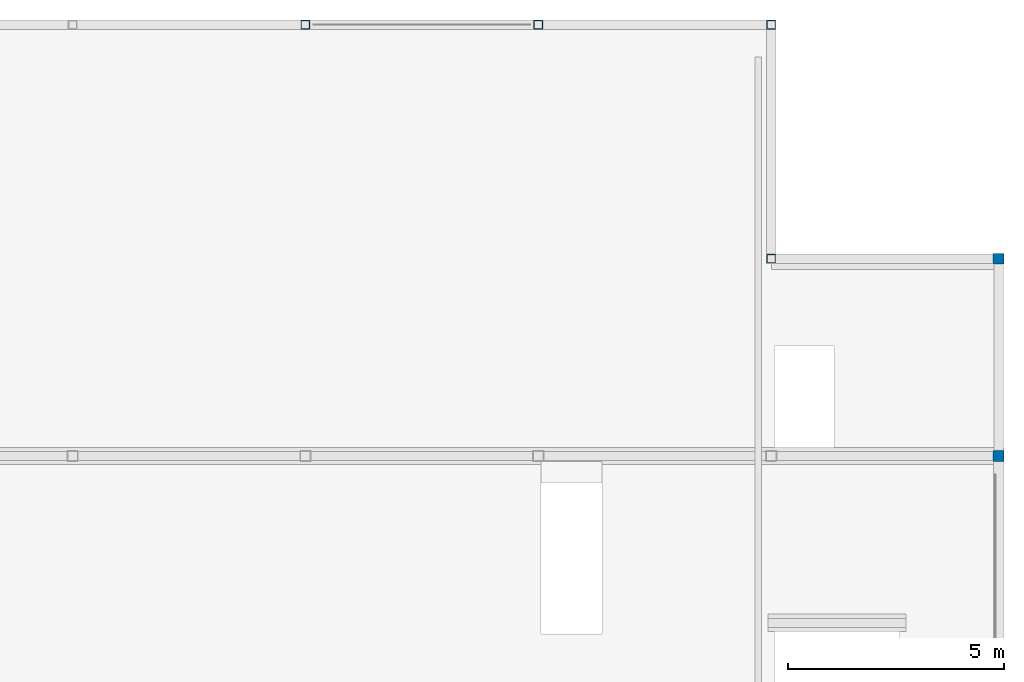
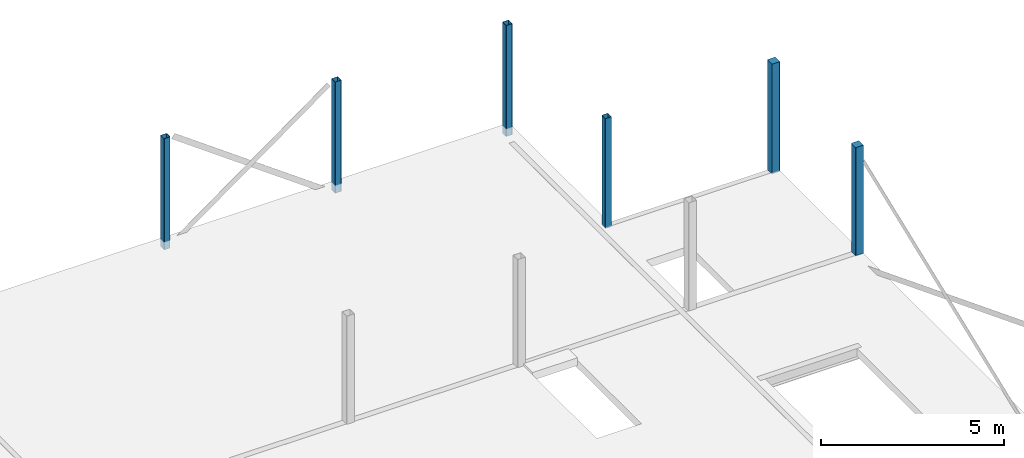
# One storey, part 5 of 7: 6 columns.
"""IFC2X3 building model written with IfcOpenShell, lengths in millimetres."""

from ifc_helpers import new_model, entity, si_unit, converted_unit, derived_unit, direction, frame, frame_2d, origin, place, context, subcontext, project, spatial, polyline, circle_curve, parameter, trimmed, segment, composite_curve, outline, extrude, source, transform, mapped, material, material_list, type_object, type_shapes, element, save


model = new_model("IFC2X3")

# Units and contexts
model_context = context("Model", 3, precision=0.01, world=origin(), true_north=direction((6.123031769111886e-17, 1.0)))
body_context = subcontext(model_context, "Body", "Model", "MODEL_VIEW")
ifc_project = project(units=[si_unit("LENGTHUNIT", "METRE", prefix="MILLI"), si_unit("AREAUNIT", "SQUARE_METRE"), si_unit("VOLUMEUNIT", "CUBIC_METRE"), converted_unit("PLANEANGLEUNIT", "DEGREE", entity("IfcPlaneAngleMeasure", 0.017453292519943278), si_unit("PLANEANGLEUNIT", "RADIAN"), dimensions=[0, 0, 0, 0, 0, 0, 0]), si_unit("MASSUNIT", "GRAM", prefix="KILO"), derived_unit("MASSDENSITYUNIT", [(si_unit("MASSUNIT", "GRAM", prefix="KILO"), 1), (si_unit("LENGTHUNIT", "METRE"), -3)]), derived_unit("IONCONCENTRATIONUNIT", [(si_unit("MASSUNIT", "GRAM", prefix="KILO"), 1), (si_unit("LENGTHUNIT", "METRE"), -3)]), derived_unit("MOMENTOFINERTIAUNIT", [(si_unit("LENGTHUNIT", "METRE"), 4)]), si_unit("TIMEUNIT", "SECOND"), si_unit("FREQUENCYUNIT", "HERTZ"), si_unit("THERMODYNAMICTEMPERATUREUNIT", "DEGREE_CELSIUS"), derived_unit("THERMALTRANSMITTANCEUNIT", [(si_unit("MASSUNIT", "GRAM", prefix="KILO"), 1), (si_unit("THERMODYNAMICTEMPERATUREUNIT", "KELVIN"), -1), (si_unit("TIMEUNIT", "SECOND"), -3)]), derived_unit("THERMALCONDUCTANCEUNIT", [(si_unit("MASSUNIT", "GRAM", prefix="KILO"), 1), (si_unit("THERMODYNAMICTEMPERATUREUNIT", "KELVIN"), -1), (si_unit("TIMEUNIT", "SECOND"), -3), (si_unit("LENGTHUNIT", "METRE"), 1)]), derived_unit("VOLUMETRICFLOWRATEUNIT", [(si_unit("LENGTHUNIT", "METRE", prefix="DECI"), 3), (si_unit("TIMEUNIT", "SECOND"), -1)]), derived_unit("MASSFLOWRATEUNIT", [(si_unit("MASSUNIT", "GRAM", prefix="KILO"), 1), (si_unit("TIMEUNIT", "SECOND"), -1)]), derived_unit("ROTATIONALFREQUENCYUNIT", [(si_unit("TIMEUNIT", "SECOND"), -1)]), si_unit("ELECTRICCURRENTUNIT", "AMPERE"), si_unit("ELECTRICVOLTAGEUNIT", "VOLT"), si_unit("POWERUNIT", "WATT"), si_unit("FORCEUNIT", "NEWTON", prefix="KILO"), si_unit("ILLUMINANCEUNIT", "LUX"), si_unit("LUMINOUSFLUXUNIT", "LUMEN"), si_unit("LUMINOUSINTENSITYUNIT", "CANDELA"), si_unit("ENERGYUNIT", "JOULE"), derived_unit("USERDEFINED", [(si_unit("MASSUNIT", "GRAM", prefix="KILO"), -1), (si_unit("LENGTHUNIT", "METRE"), -2), (si_unit("TIMEUNIT", "SECOND"), 3), (si_unit("LUMINOUSFLUXUNIT", "LUMEN"), 1)]), derived_unit("USERDEFINED", [(si_unit("MASSUNIT", "GRAM", prefix="KILO"), 1), (si_unit("TIMEUNIT", "SECOND"), -3), (si_unit("LENGTHUNIT", "METRE"), 3), (si_unit("ELECTRICCURRENTUNIT", "AMPERE"), -2)]), derived_unit("SOUNDPOWERUNIT", [(si_unit("MASSUNIT", "GRAM", prefix="KILO"), 1), (si_unit("TIMEUNIT", "SECOND"), -3), (si_unit("LENGTHUNIT", "METRE"), 2)]), derived_unit("SOUNDPRESSUREUNIT", [(si_unit("MASSUNIT", "GRAM", prefix="KILO"), 1), (si_unit("LENGTHUNIT", "METRE"), -1), (si_unit("TIMEUNIT", "SECOND"), -2)]), derived_unit("LINEARVELOCITYUNIT", [(si_unit("LENGTHUNIT", "METRE"), 1), (si_unit("TIMEUNIT", "SECOND"), -1)]), si_unit("PRESSUREUNIT", "PASCAL"), derived_unit("USERDEFINED", [(si_unit("MASSUNIT", "GRAM", prefix="KILO"), 1), (si_unit("LENGTHUNIT", "METRE"), -2), (si_unit("TIMEUNIT", "SECOND"), -2)]), derived_unit("LINEARFORCEUNIT", [(si_unit("MASSUNIT", "GRAM", prefix="KILO"), 1), (si_unit("TIMEUNIT", "SECOND"), -2)]), derived_unit("PLANARFORCEUNIT", [(si_unit("MASSUNIT", "GRAM", prefix="KILO"), 1), (si_unit("LENGTHUNIT", "METRE"), -1), (si_unit("TIMEUNIT", "SECOND"), -2)]), derived_unit("SPECIFICHEATCAPACITYUNIT", [(si_unit("THERMODYNAMICTEMPERATUREUNIT", "KELVIN"), -1), (si_unit("LENGTHUNIT", "METRE"), 2), (si_unit("TIMEUNIT", "SECOND"), -2)]), derived_unit("HEATFLUXDENSITYUNIT", [(si_unit("MASSUNIT", "GRAM", prefix="KILO"), 1), (si_unit("TIMEUNIT", "SECOND"), -3)]), derived_unit("HEATINGVALUEUNIT", [(si_unit("LENGTHUNIT", "METRE"), 2), (si_unit("TIMEUNIT", "SECOND"), -2)]), derived_unit("VAPORPERMEABILITYUNIT", [(si_unit("LENGTHUNIT", "METRE"), -1), (si_unit("TIMEUNIT", "SECOND"), 1)]), derived_unit("DYNAMICVISCOSITYUNIT", [(si_unit("MASSUNIT", "GRAM", prefix="KILO"), 1), (si_unit("TIMEUNIT", "SECOND"), -1), (si_unit("LENGTHUNIT", "METRE"), -1)]), derived_unit("THERMALEXPANSIONCOEFFICIENTUNIT", [(si_unit("THERMODYNAMICTEMPERATUREUNIT", "KELVIN"), -1)]), derived_unit("MODULUSOFELASTICITYUNIT", [(si_unit("MASSUNIT", "GRAM", prefix="KILO"), 1), (si_unit("LENGTHUNIT", "METRE"), -1), (si_unit("TIMEUNIT", "SECOND"), -2)]), derived_unit("ISOTHERMALMOISTURECAPACITYUNIT", [(si_unit("MASSUNIT", "GRAM", prefix="KILO"), -1), (si_unit("LENGTHUNIT", "METRE"), 3)]), derived_unit("MOISTUREDIFFUSIVITYUNIT", [(si_unit("TIMEUNIT", "SECOND"), -1), (si_unit("LENGTHUNIT", "METRE"), 2)]), derived_unit("MASSPERLENGTHUNIT", [(si_unit("MASSUNIT", "GRAM", prefix="KILO"), 1), (si_unit("LENGTHUNIT", "METRE"), -1)]), derived_unit("THERMALRESISTANCEUNIT", [(si_unit("MASSUNIT", "GRAM", prefix="KILO"), -1), (si_unit("TIMEUNIT", "SECOND"), 3), (si_unit("THERMODYNAMICTEMPERATUREUNIT", "KELVIN"), 1)]), derived_unit("ACCELERATIONUNIT", [(si_unit("LENGTHUNIT", "METRE"), 1), (si_unit("TIMEUNIT", "SECOND"), -2)]), derived_unit("ANGULARVELOCITYUNIT", [(si_unit("TIMEUNIT", "SECOND"), -1), (si_unit("PLANEANGLEUNIT", "RADIAN"), 1)]), derived_unit("LINEARSTIFFNESSUNIT", [(si_unit("MASSUNIT", "GRAM", prefix="KILO"), 1), (si_unit("TIMEUNIT", "SECOND"), -2)]), derived_unit("WARPINGCONSTANTUNIT", [(si_unit("LENGTHUNIT", "METRE"), 6)]), derived_unit("LINEARMOMENTUNIT", [(si_unit("MASSUNIT", "GRAM", prefix="KILO"), 1), (si_unit("LENGTHUNIT", "METRE"), 1), (si_unit("TIMEUNIT", "SECOND"), -2)]), derived_unit("TORQUEUNIT", [(si_unit("MASSUNIT", "GRAM", prefix="KILO"), 1), (si_unit("LENGTHUNIT", "METRE"), 2), (si_unit("TIMEUNIT", "SECOND"), -2)])], contexts=[model_context])

# Site, building, storey
site_placement = place(None, origin())
site = spatial("IfcSite", under=ifc_project, at=site_placement, Name="Default", CompositionType="ELEMENT")
building_placement = place(site_placement, origin())
building = spatial("IfcBuilding", under=site, at=building_placement, CompositionType="ELEMENT")
storey_placement = place(building_placement, frame((0.0, 0.0, 4000.0)))
storey = spatial("IfcBuildingStorey", under=building, at=storey_placement, Name="01 eerste verdieping", CompositionType="ELEMENT", Elevation=4000.0000000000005)

# Columns
ifc_material_1 = material(Name="VRI_staal")
column_type_1 = type_object("IfcColumnType", Name="28_SC_VRI_kolom_staal_koker:K200x200x8", PredefinedType="COLUMN", material=ifc_material_1)
shared_shape_1 = source(origin(), body_context, "Body", "SweptSolid", [
    extrude(outline(composite_curve([segment(polyline([(-88.0, -100.0), (88.0, -100.0)]), True, "CONTINUOUS"), segment(trimmed(circle_curve(frame_2d((88.0, -88.0), x_axis=(0.0, -1.0)), 12.0), [parameter(359.9999999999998)], [parameter(89.99999999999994)], True, "PARAMETER"), True, "CONTINUOUS"), segment(polyline([(100.0, -88.0), (100.0, 88.0)]), True, "CONTINUOUS"), segment(trimmed(circle_curve(frame_2d((88.0, 88.0), x_axis=(0.0, -1.0)), 12.0), [parameter(90.00000000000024)], [parameter(180.0000000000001)], True, "PARAMETER"), True, "CONTINUOUS"), segment(polyline([(88.0, 100.0), (-88.0, 100.0)]), True, "CONTINUOUS"), segment(trimmed(circle_curve(frame_2d((-88.0, 88.0), x_axis=(0.0, -1.0)), 12.0), [parameter(179.99999999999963)], [parameter(269.9999999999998)], True, "PARAMETER"), True, "CONTINUOUS"), segment(polyline([(-100.0, 88.0), (-100.0, -88.0)]), True, "CONTINUOUS"), segment(trimmed(circle_curve(frame_2d((-88.0, -88.0), x_axis=(0.0, -1.0)), 12.0), [parameter(270.00000000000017)], [parameter(1.0177774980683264e-13)], True, "PARAMETER"), True, "CONTINUOUS")], self_intersect=False), holes=[composite_curve([segment(trimmed(circle_curve(frame_2d((-88.0, 88.0), x_axis=(0.0, -1.0)), 4.0), [parameter(180.0000000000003)], [parameter(270.0000000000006)], True, "PARAMETER"), False, "CONTINUOUS"), segment(polyline([(-88.0, 92.0), (88.0, 92.0)]), True, "CONTINUOUS"), segment(trimmed(circle_curve(frame_2d((88.0, 88.0), x_axis=(0.0, -1.0)), 4.0), [parameter(90.00000000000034)], [parameter(179.99999999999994)], True, "PARAMETER"), False, "CONTINUOUS"), segment(polyline([(92.0, 88.0), (92.0, -88.0)]), True, "CONTINUOUS"), segment(trimmed(circle_curve(frame_2d((88.0, -88.0), x_axis=(0.0, -1.0)), 4.0), [parameter(5.088887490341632e-13)], [parameter(90.00000000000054)], True, "PARAMETER"), False, "CONTINUOUS"), segment(polyline([(88.0, -92.0), (-88.0, -92.0)]), True, "CONTINUOUS"), segment(trimmed(circle_curve(frame_2d((-88.0, -88.0), x_axis=(0.0, -1.0)), 4.0), [parameter(269.9999999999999)], [parameter(0.0)], True, "PARAMETER"), False, "CONTINUOUS"), segment(polyline([(-92.0, -88.0), (-92.0, 88.0)]), True, "CONTINUOUS")], self_intersect=False)]), frame((-5.0, 0.0, 3655.0), z_axis=(0.0, 0.0, 1.0), x_axis=(0.0, 1.0, 0.0)), (0.0, 0.0, 1.0), 3709.9999999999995),
])
type_shapes(column_type_1, [shared_shape_1])
for number, where in (
    (1, (42405.0, 40000.0, -4000.0)),
    (2, (53205.0, 40000.0, -4000.0)),
    (3, (47805.0, 40000.0, -4000.0)),
):
    element("IfcColumn", number, at=place(storey_placement, frame(where)), inside=storey, type_object=column_type_1, material=ifc_material_1, Name="28_SC_VRI_kolom_staal_koker:K200x200x8", ObjectType="28_SC_VRI_kolom_staal_koker:K200x200x8", context=body_context, shape_type="MappedRepresentation", body=[
        mapped(shared_shape_1, transform((0.0, 0.0, 0.0), scale=1.0)),
    ])
column_type_2 = type_object("IfcColumnType", Name="28_SC_VRI_kolom_staal_koker:K200x200x8", PredefinedType="COLUMN", material=ifc_material_1)
shared_shape_2 = source(origin(), body_context, "Body", "SweptSolid", [
    extrude(outline(composite_curve([segment(polyline([(-88.0, -100.0), (88.0, -100.0)]), True, "CONTINUOUS"), segment(trimmed(circle_curve(frame_2d((88.0, -88.0), x_axis=(0.0, -1.0)), 12.0), [parameter(359.9999999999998)], [parameter(89.99999999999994)], True, "PARAMETER"), True, "CONTINUOUS"), segment(polyline([(100.0, -88.0), (100.0, 88.0)]), True, "CONTINUOUS"), segment(trimmed(circle_curve(frame_2d((88.0, 88.0), x_axis=(0.0, -1.0)), 12.0), [parameter(90.00000000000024)], [parameter(180.0000000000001)], True, "PARAMETER"), True, "CONTINUOUS"), segment(polyline([(88.0, 100.0), (-88.0, 100.0)]), True, "CONTINUOUS"), segment(trimmed(circle_curve(frame_2d((-88.0, 88.0), x_axis=(0.0, -1.0)), 12.0), [parameter(179.99999999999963)], [parameter(269.9999999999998)], True, "PARAMETER"), True, "CONTINUOUS"), segment(polyline([(-100.0, 88.0), (-100.0, -88.0)]), True, "CONTINUOUS"), segment(trimmed(circle_curve(frame_2d((-88.0, -88.0), x_axis=(0.0, -1.0)), 12.0), [parameter(270.00000000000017)], [parameter(1.0177774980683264e-13)], True, "PARAMETER"), True, "CONTINUOUS")], self_intersect=False), holes=[composite_curve([segment(trimmed(circle_curve(frame_2d((-88.0, 88.0), x_axis=(0.0, -1.0)), 4.0), [parameter(180.0000000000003)], [parameter(270.0000000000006)], True, "PARAMETER"), False, "CONTINUOUS"), segment(polyline([(-88.0, 92.0), (88.0, 92.0)]), True, "CONTINUOUS"), segment(trimmed(circle_curve(frame_2d((88.0, 88.0), x_axis=(0.0, -1.0)), 4.0), [parameter(90.00000000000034)], [parameter(179.99999999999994)], True, "PARAMETER"), False, "CONTINUOUS"), segment(polyline([(92.0, 88.0), (92.0, -88.0)]), True, "CONTINUOUS"), segment(trimmed(circle_curve(frame_2d((88.0, -88.0), x_axis=(0.0, -1.0)), 4.0), [parameter(5.088887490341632e-13)], [parameter(90.00000000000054)], True, "PARAMETER"), False, "CONTINUOUS"), segment(polyline([(88.0, -92.0), (-88.0, -92.0)]), True, "CONTINUOUS"), segment(trimmed(circle_curve(frame_2d((-88.0, -88.0), x_axis=(0.0, -1.0)), 4.0), [parameter(269.9999999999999)], [parameter(0.0)], True, "PARAMETER"), False, "CONTINUOUS"), segment(polyline([(-92.0, -88.0), (-92.0, 88.0)]), True, "CONTINUOUS")], self_intersect=False)]), frame((-5.0, 0.0, 3875.0), z_axis=(0.0, 0.0, 1.0), x_axis=(0.0, 1.0, 0.0)), (0.0, 0.0, 1.0), 3669.9999999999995),
])
type_shapes(column_type_2, [shared_shape_2])
column_1_placement = place(storey_placement, frame((53205.0, 34575.0, -4000.0)))
element("IfcColumn", 4, at=column_1_placement, inside=storey, type_object=column_type_2, material=ifc_material_1, Name="28_SC_VRI_kolom_staal_koker:K200x200x8", ObjectType="28_SC_VRI_kolom_staal_koker:K200x200x8", context=body_context, shape_type="MappedRepresentation", body=[
    mapped(shared_shape_2, transform((0.0, 0.0, 0.0), scale=1.0)),
])
ifc_material_2 = material(Name="VRI_beton_ihwg")
ifc_material_list = material_list([ifc_material_2, ifc_material_1])
column_type_3 = type_object("IfcColumnType", Name="28_SC_VRI_kolom_staal_betongevuld_koker:K250x250x8_gevuld", PredefinedType="COLUMN", material=ifc_material_list)
shared_shape_3 = source(origin(), body_context, "Body", "SweptSolid", [
    extrude(outline(composite_curve([segment(polyline([(-113.0, -117.0), (113.0, -117.0)]), True, "CONTINUOUS"), segment(trimmed(circle_curve(frame_2d((113.0, -113.0), x_axis=(-1.0, 0.0)), 4.0), [parameter(89.99999999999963)], [parameter(179.9999999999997)], True, "PARAMETER"), True, "CONTINUOUS"), segment(polyline([(117.0, -113.0), (117.0, 113.0)]), True, "CONTINUOUS"), segment(trimmed(circle_curve(frame_2d((113.0, 113.0), x_axis=(-1.0, 0.0)), 4.0), [parameter(180.00000000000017)], [parameter(269.99999999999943)], True, "PARAMETER"), True, "CONTINUOUS"), segment(polyline([(113.0, 117.0), (-113.0, 117.0)]), True, "CONTINUOUS"), segment(trimmed(circle_curve(frame_2d((-113.0, 113.0), x_axis=(-1.0, 0.0)), 4.0), [parameter(269.99999999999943)], [parameter(359.9999999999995)], True, "PARAMETER"), True, "CONTINUOUS"), segment(polyline([(-117.0, 113.0), (-117.0, -113.0)]), True, "CONTINUOUS"), segment(trimmed(circle_curve(frame_2d((-113.0, -113.0), x_axis=(-1.0, 0.0)), 4.0), [parameter(359.9999999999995)], [parameter(89.99999999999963)], True, "PARAMETER"), True, "CONTINUOUS")], self_intersect=False)), frame((-5.0, 0.0, 3875.0), z_axis=(0.0, 0.0, 1.0), x_axis=(-1.0, 0.0, 0.0)), (0.0, 0.0, 1.0), 3669.9999999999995),
    extrude(outline(composite_curve([segment(polyline([(-113.0, -125.0), (113.0, -125.0)]), True, "CONTINUOUS"), segment(trimmed(circle_curve(frame_2d((113.0, -113.0), x_axis=(0.0, -1.0)), 12.0), [parameter(359.99999999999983)], [parameter(89.99999999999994)], True, "PARAMETER"), True, "CONTINUOUS"), segment(polyline([(125.0, -113.0), (125.0, 113.0)]), True, "CONTINUOUS"), segment(trimmed(circle_curve(frame_2d((113.0, 113.0), x_axis=(0.0, -1.0)), 12.0), [parameter(90.00000000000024)], [parameter(180.00000000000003)], True, "PARAMETER"), True, "CONTINUOUS"), segment(polyline([(113.0, 125.0), (-113.0, 125.0)]), True, "CONTINUOUS"), segment(trimmed(circle_curve(frame_2d((-113.0, 113.0), x_axis=(0.0, -1.0)), 12.0), [parameter(179.99999999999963)], [parameter(269.9999999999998)], True, "PARAMETER"), True, "CONTINUOUS"), segment(polyline([(-125.0, 113.0), (-125.0, -113.0)]), True, "CONTINUOUS"), segment(trimmed(circle_curve(frame_2d((-113.0, -113.0), x_axis=(0.0, -1.0)), 12.0), [parameter(270.00000000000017)], [parameter(1.0177774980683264e-13)], True, "PARAMETER"), True, "CONTINUOUS")], self_intersect=False), holes=[composite_curve([segment(trimmed(circle_curve(frame_2d((-113.0, 113.0), x_axis=(0.0, -1.0)), 4.0), [parameter(180.0000000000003)], [parameter(270.0000000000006)], True, "PARAMETER"), False, "CONTINUOUS"), segment(polyline([(-113.0, 117.0), (113.0, 117.0)]), True, "CONTINUOUS"), segment(trimmed(circle_curve(frame_2d((113.0, 113.0), x_axis=(0.0, -1.0)), 4.0), [parameter(90.00000000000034)], [parameter(179.9999999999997)], True, "PARAMETER"), False, "CONTINUOUS"), segment(polyline([(117.0, 113.0), (117.0, -113.0)]), True, "CONTINUOUS"), segment(trimmed(circle_curve(frame_2d((113.0, -113.0), x_axis=(0.0, -1.0)), 4.0), [parameter(5.088887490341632e-13)], [parameter(90.00000000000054)], True, "PARAMETER"), False, "CONTINUOUS"), segment(polyline([(113.0, -117.0), (-113.0, -117.0)]), True, "CONTINUOUS"), segment(trimmed(circle_curve(frame_2d((-113.0, -113.0), x_axis=(0.0, -1.0)), 4.0), [parameter(269.9999999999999)], [parameter(0.0)], True, "PARAMETER"), False, "CONTINUOUS"), segment(polyline([(-117.0, -113.0), (-117.0, 113.0)]), True, "CONTINUOUS")], self_intersect=False)]), frame((-5.0, 0.0, 3875.0), z_axis=(0.0, 0.0, 1.0), x_axis=(0.0, 1.0, 0.0)), (0.0, 0.0, 1.0), 3669.9999999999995),
])
type_shapes(column_type_3, [shared_shape_3])
column_2_placement = place(storey_placement, frame((58480.0, 34575.0, -4000.0)))
element("IfcColumn", 5, at=column_2_placement, inside=storey, type_object=column_type_3, material=ifc_material_list, Name="28_SC_VRI_kolom_staal_betongevuld_koker:K250x250x8_gevuld", ObjectType="28_SC_VRI_kolom_staal_betongevuld_koker:K250x250x8_gevuld", context=body_context, shape_type="MappedRepresentation", body=[
    mapped(shared_shape_3, transform((0.0, 0.0, 0.0), scale=1.0)),
])
column_type_4 = type_object("IfcColumnType", Name="28_SC_VRI_kolom_staal_betongevuld_koker:K250x250x8_gevuld", PredefinedType="COLUMN", material=ifc_material_list)
shared_shape_4 = source(origin(), body_context, "Body", "SweptSolid", [
    extrude(outline(composite_curve([segment(polyline([(-113.0, -117.0), (113.0, -117.0)]), True, "CONTINUOUS"), segment(trimmed(circle_curve(frame_2d((113.0, -113.0), x_axis=(-1.0, 0.0)), 4.0), [parameter(89.99999999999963)], [parameter(179.9999999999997)], True, "PARAMETER"), True, "CONTINUOUS"), segment(polyline([(117.0, -113.0), (117.0, 113.0)]), True, "CONTINUOUS"), segment(trimmed(circle_curve(frame_2d((113.0, 113.0), x_axis=(-1.0, 0.0)), 4.0), [parameter(180.00000000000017)], [parameter(269.99999999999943)], True, "PARAMETER"), True, "CONTINUOUS"), segment(polyline([(113.0, 117.0), (-113.0, 117.0)]), True, "CONTINUOUS"), segment(trimmed(circle_curve(frame_2d((-113.0, 113.0), x_axis=(-1.0, 0.0)), 4.0), [parameter(269.99999999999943)], [parameter(359.9999999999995)], True, "PARAMETER"), True, "CONTINUOUS"), segment(polyline([(-117.0, 113.0), (-117.0, -113.0)]), True, "CONTINUOUS"), segment(trimmed(circle_curve(frame_2d((-113.0, -113.0), x_axis=(-1.0, 0.0)), 4.0), [parameter(359.9999999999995)], [parameter(89.99999999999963)], True, "PARAMETER"), True, "CONTINUOUS")], self_intersect=False)), frame((-5.0, 0.0, 3920.0), z_axis=(0.0, 0.0, 1.0), x_axis=(-1.0, 0.0, 0.0)), (0.0, 0.0, 1.0), 3609.999999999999),
    extrude(outline(composite_curve([segment(polyline([(-113.0, -125.0), (113.0, -125.0)]), True, "CONTINUOUS"), segment(trimmed(circle_curve(frame_2d((113.0, -113.0), x_axis=(0.0, -1.0)), 12.0), [parameter(359.99999999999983)], [parameter(89.99999999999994)], True, "PARAMETER"), True, "CONTINUOUS"), segment(polyline([(125.0, -113.0), (125.0, 113.0)]), True, "CONTINUOUS"), segment(trimmed(circle_curve(frame_2d((113.0, 113.0), x_axis=(0.0, -1.0)), 12.0), [parameter(90.00000000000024)], [parameter(180.00000000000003)], True, "PARAMETER"), True, "CONTINUOUS"), segment(polyline([(113.0, 125.0), (-113.0, 125.0)]), True, "CONTINUOUS"), segment(trimmed(circle_curve(frame_2d((-113.0, 113.0), x_axis=(0.0, -1.0)), 12.0), [parameter(179.99999999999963)], [parameter(269.9999999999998)], True, "PARAMETER"), True, "CONTINUOUS"), segment(polyline([(-125.0, 113.0), (-125.0, -113.0)]), True, "CONTINUOUS"), segment(trimmed(circle_curve(frame_2d((-113.0, -113.0), x_axis=(0.0, -1.0)), 12.0), [parameter(270.00000000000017)], [parameter(1.0177774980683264e-13)], True, "PARAMETER"), True, "CONTINUOUS")], self_intersect=False), holes=[composite_curve([segment(trimmed(circle_curve(frame_2d((-113.0, 113.0), x_axis=(0.0, -1.0)), 4.0), [parameter(180.0000000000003)], [parameter(270.0000000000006)], True, "PARAMETER"), False, "CONTINUOUS"), segment(polyline([(-113.0, 117.0), (113.0, 117.0)]), True, "CONTINUOUS"), segment(trimmed(circle_curve(frame_2d((113.0, 113.0), x_axis=(0.0, -1.0)), 4.0), [parameter(90.00000000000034)], [parameter(179.9999999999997)], True, "PARAMETER"), False, "CONTINUOUS"), segment(polyline([(117.0, 113.0), (117.0, -113.0)]), True, "CONTINUOUS"), segment(trimmed(circle_curve(frame_2d((113.0, -113.0), x_axis=(0.0, -1.0)), 4.0), [parameter(5.088887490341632e-13)], [parameter(90.00000000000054)], True, "PARAMETER"), False, "CONTINUOUS"), segment(polyline([(113.0, -117.0), (-113.0, -117.0)]), True, "CONTINUOUS"), segment(trimmed(circle_curve(frame_2d((-113.0, -113.0), x_axis=(0.0, -1.0)), 4.0), [parameter(269.9999999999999)], [parameter(0.0)], True, "PARAMETER"), False, "CONTINUOUS"), segment(polyline([(-117.0, -113.0), (-117.0, 113.0)]), True, "CONTINUOUS")], self_intersect=False)]), frame((-5.0, 0.0, 3920.0), z_axis=(0.0, 0.0, 1.0), x_axis=(0.0, 1.0, 0.0)), (0.0, 0.0, 1.0), 3609.999999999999),
])
type_shapes(column_type_4, [shared_shape_4])
column_3_placement = place(storey_placement, frame((58480.0, 30000.0, -4000.0)))
element("IfcColumn", 6, at=column_3_placement, inside=storey, type_object=column_type_4, material=ifc_material_list, Name="28_SC_VRI_kolom_staal_betongevuld_koker:K250x250x8_gevuld", ObjectType="28_SC_VRI_kolom_staal_betongevuld_koker:K250x250x8_gevuld", context=body_context, shape_type="MappedRepresentation", body=[
    mapped(shared_shape_4, transform((0.0, 0.0, 0.0), scale=1.0)),
])

save(model, "model.ifc")
